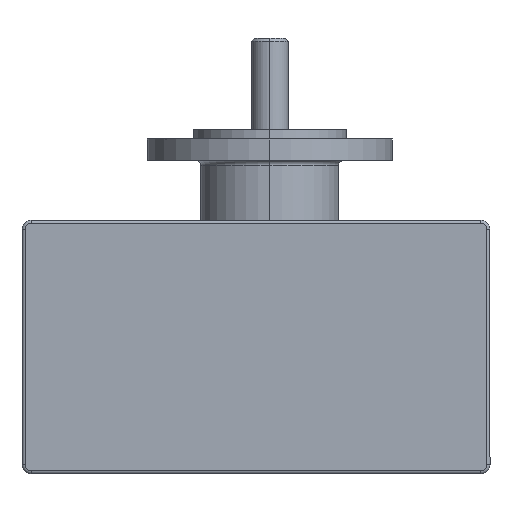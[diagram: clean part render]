
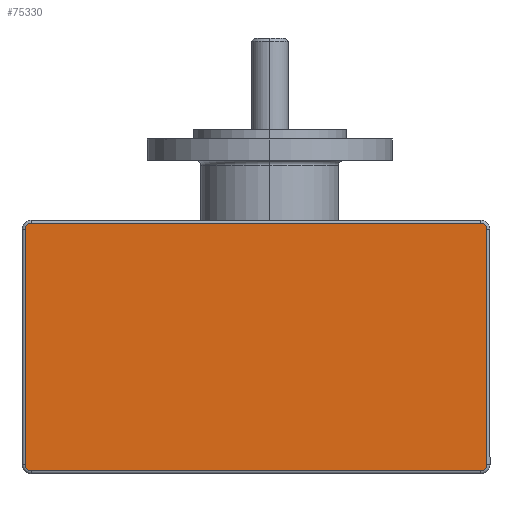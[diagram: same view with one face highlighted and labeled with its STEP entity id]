
A CAD part, left-side view. The second image highlights one B-rep face of the part: STEP entity #75330.
In plain terms, the highlighted planar face has unit normal (-1, 0, 0) as drawn and (0, 0, -1) by its records, which use the part's own axes.
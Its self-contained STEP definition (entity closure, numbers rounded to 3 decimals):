
#69840=CARTESIAN_POINT('',(-92.958,-332.478,
-66.5));
#69850=VERTEX_POINT('',#69840);
#70030=CARTESIAN_POINT('',(-92.958,-185.478,
-66.5));
#70040=VERTEX_POINT('',#70030);
#70070=CARTESIAN_POINT('',(-92.958,90.916,
-66.5));
#70080=DIRECTION('',(0.,-1.,0.));
#70090=VECTOR('',#70080,1.);
#70100=LINE('',#70070,#70090);
#70110=EDGE_CURVE('',#70040,#69850,#70100,.T.);
#70280=CARTESIAN_POINT('',(-94.958,-183.478,
-66.5));
#70290=VERTEX_POINT('',#70280);
#70320=CARTESIAN_POINT('',(-94.958,-185.478,
-66.5));
#70330=DIRECTION('',(0.,0.,1.));
#70340=DIRECTION('',(0.,1.,0.));
#70350=AXIS2_PLACEMENT_3D('',#70320,#70330,#70340);
#70360=CIRCLE('',#70350,2.);
#70370=EDGE_CURVE('',#70040,#70290,#70360,.T.);
#70600=CARTESIAN_POINT('',(-173.958,-185.478,
-66.5));
#70610=VERTEX_POINT('',#70600);
#70660=CARTESIAN_POINT('',(-171.958,-185.478,
-66.5));
#70670=DIRECTION('',(0.,0.,-1.));
#70680=DIRECTION('',(0.,-1.,0.));
#70690=AXIS2_PLACEMENT_3D('',#70660,#70670,#70680);
#70700=CIRCLE('',#70690,2.);
#70710=CARTESIAN_POINT('',(-171.958,-183.478,
-66.5));
#70720=VERTEX_POINT('',#70710);
#70730=EDGE_CURVE('',#70610,#70720,#70700,.T.);
#71070=CARTESIAN_POINT('',(-336.936,-183.478,
-66.5));
#71080=DIRECTION('',(-1.,0.,0.));
#71090=VECTOR('',#71080,1.);
#71100=LINE('',#71070,#71090);
#71110=EDGE_CURVE('',#70290,#70720,#71100,.T.);
#73030=CARTESIAN_POINT('',(-94.958,-332.478,
-66.5));
#73040=DIRECTION('',(0.,0.,-1.));
#73050=DIRECTION('',(0.,-1.,0.));
#73060=AXIS2_PLACEMENT_3D('',#73030,#73040,#73050);
#73070=CIRCLE('',#73060,2.);
#73080=CARTESIAN_POINT('',(-94.958,-334.478,
-66.5));
#73090=VERTEX_POINT('',#73080);
#73100=EDGE_CURVE('',#69850,#73090,#73070,.T.);
#73690=CARTESIAN_POINT('',(-171.958,-334.478,
-66.5));
#73700=VERTEX_POINT('',#73690);
#73750=CARTESIAN_POINT('',(-336.936,-334.478,
-66.5));
#73760=DIRECTION('',(1.,0.,0.));
#73770=VECTOR('',#73760,1.);
#73780=LINE('',#73750,#73770);
#73790=EDGE_CURVE('',#73700,#73090,#73780,.T.);
#74080=CARTESIAN_POINT('',(-171.958,-332.478,
-66.5));
#74090=DIRECTION('',(0.,0.,-1.));
#74100=DIRECTION('',(0.,-1.,0.));
#74110=AXIS2_PLACEMENT_3D('',#74080,#74090,#74100);
#74120=CIRCLE('',#74110,2.);
#74130=CARTESIAN_POINT('',(-173.958,-332.478,
-66.5));
#74140=VERTEX_POINT('',#74130);
#74150=EDGE_CURVE('',#73700,#74140,#74120,.T.);
#75130=CARTESIAN_POINT('',(-162.356,-210.586,
-66.5));
#75140=DIRECTION('',(0.,0.,1.));
#75150=DIRECTION('',(0.,-1.,0.));
#75160=AXIS2_PLACEMENT_3D('',#75130,#75140,#75150);
#75170=PLANE('',#75160);
#75180=ORIENTED_EDGE('',*,*,#70730,.T.);
#75190=CARTESIAN_POINT('',(-173.958,90.916,
-66.5));
#75200=DIRECTION('',(0.,1.,0.));
#75210=VECTOR('',#75200,1.);
#75220=LINE('',#75190,#75210);
#75230=EDGE_CURVE('',#74140,#70610,#75220,.T.);
#75240=ORIENTED_EDGE('',*,*,#75230,.T.);
#75250=ORIENTED_EDGE('',*,*,#74150,.T.);
#75260=ORIENTED_EDGE('',*,*,#73790,.F.);
#75270=ORIENTED_EDGE('',*,*,#73100,.T.);
#75280=ORIENTED_EDGE('',*,*,#70110,.T.);
#75290=ORIENTED_EDGE('',*,*,#70370,.F.);
#75300=ORIENTED_EDGE('',*,*,#71110,.F.);
#75310=EDGE_LOOP('',(#75300,#75290,#75280,#75270,#75260,#75250,#75240,
#75180));
#75320=FACE_OUTER_BOUND('',#75310,.T.);
#75330=ADVANCED_FACE('',(#75320),#75170,.F.);
